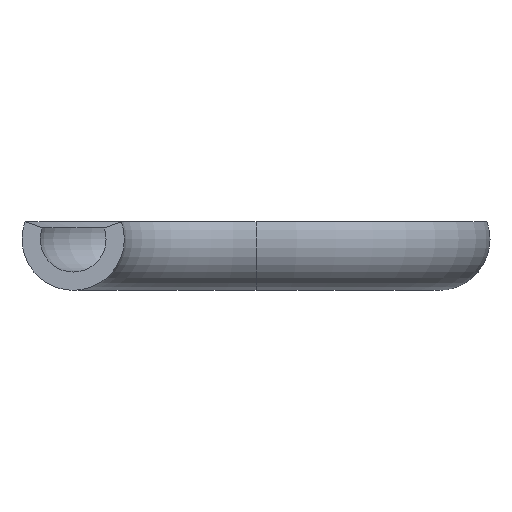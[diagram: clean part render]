
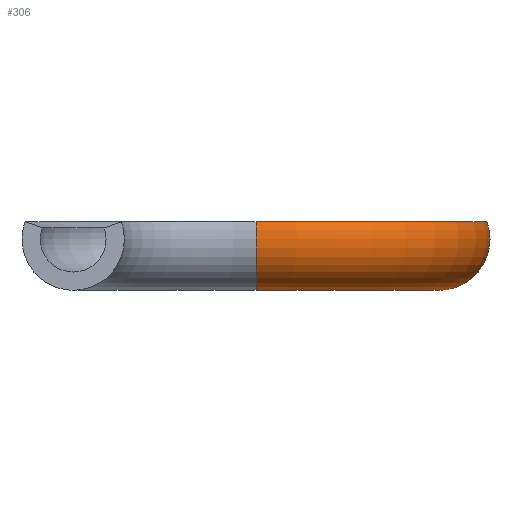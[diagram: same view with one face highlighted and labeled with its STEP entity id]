
A CAD part, left-side view. The second image highlights one B-rep face of the part: STEP entity #306.
In plain terms, the highlighted toroidal (fillet/blend) face has major radius 25 mm and minor radius 7 mm.
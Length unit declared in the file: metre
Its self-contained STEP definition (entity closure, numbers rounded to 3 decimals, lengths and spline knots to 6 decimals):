
#20=TOROIDAL_SURFACE('',#351,0.025,0.007);
#102=ORIENTED_EDGE('',*,*,#171,.F.);
#103=ORIENTED_EDGE('',*,*,#178,.F.);
#104=ORIENTED_EDGE('',*,*,#179,.T.);
#105=ORIENTED_EDGE('',*,*,#180,.T.);
#171=EDGE_CURVE('',#210,#211,#231,.F.);
#178=EDGE_CURVE('',#214,#210,#236,.T.);
#179=EDGE_CURVE('',#214,#215,#237,.F.);
#180=EDGE_CURVE('',#215,#211,#238,.T.);
#210=VERTEX_POINT('',#520);
#211=VERTEX_POINT('',#522);
#214=VERTEX_POINT('',#536);
#215=VERTEX_POINT('',#538);
#231=CIRCLE('',#343,0.007);
#236=CIRCLE('',#352,0.031578);
#237=CIRCLE('',#353,0.007);
#238=CIRCLE('',#354,0.018422);
#258=EDGE_LOOP('',(#102,#103,#104,#105));
#280=FACE_BOUND('',#258,.T.);
#306=ADVANCED_FACE('',(#280),#20,.T.);
#343=AXIS2_PLACEMENT_3D('',#521,#409,#410);
#351=AXIS2_PLACEMENT_3D('',#534,#427,#428);
#352=AXIS2_PLACEMENT_3D('',#535,#429,#430);
#353=AXIS2_PLACEMENT_3D('',#537,#431,#432);
#354=AXIS2_PLACEMENT_3D('',#539,#433,#434);
#409=DIRECTION('',(0.,-1.,0.));
#410=DIRECTION('',(-0.94,0.,0.342));
#427=DIRECTION('',(0.,0.,1.));
#428=DIRECTION('',(1.,0.,0.));
#429=DIRECTION('',(0.,0.,1.));
#430=DIRECTION('',(-1.,0.,0.));
#431=DIRECTION('',(0.,1.,0.));
#432=DIRECTION('',(0.94,0.,0.342));
#433=DIRECTION('',(0.,0.,1.));
#434=DIRECTION('',(-1.,0.,0.));
#520=CARTESIAN_POINT('',(0.540281,-0.28361,0.002394));
#521=CARTESIAN_POINT('',(0.533704,-0.28361,0.));
#522=CARTESIAN_POINT('',(0.527126,-0.28361,0.002394));
#534=CARTESIAN_POINT('',(0.508704,-0.28361,0.));
#535=CARTESIAN_POINT('',(0.508704,-0.28361,0.002394));
#536=CARTESIAN_POINT('',(0.477126,-0.28361,0.002394));
#537=CARTESIAN_POINT('',(0.483704,-0.28361,0.));
#538=CARTESIAN_POINT('',(0.490281,-0.28361,0.002394));
#539=CARTESIAN_POINT('',(0.508704,-0.28361,0.002394));
